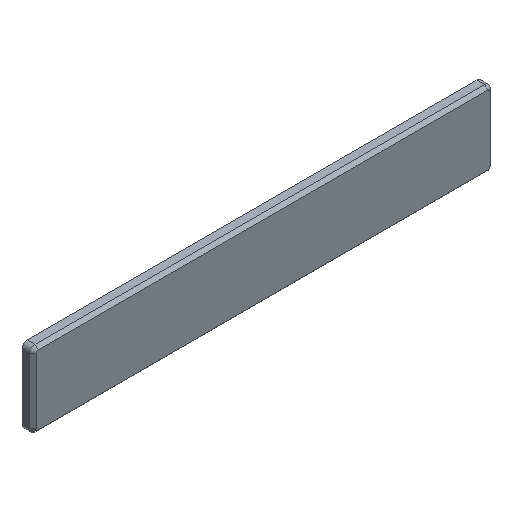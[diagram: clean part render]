
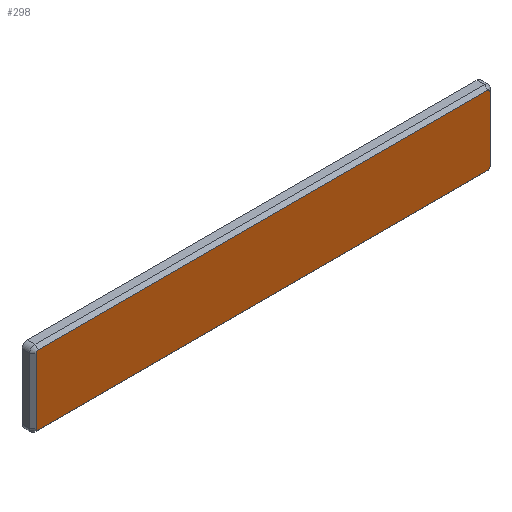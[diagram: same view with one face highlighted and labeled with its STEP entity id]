
A CAD part, isometric view. The second image highlights one B-rep face of the part: STEP entity #298.
In plain terms, the highlighted planar face has unit normal (0, -1, 0).
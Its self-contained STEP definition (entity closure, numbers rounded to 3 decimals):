
#40=FACE_OUTER_BOUND('',#58,.T.);
#58=EDGE_LOOP('',(#263,#264,#265,#266,#267,#268,#269,#270));
#64=LINE('',#456,#92);
#69=LINE('',#470,#97);
#73=LINE('',#482,#101);
#77=LINE('',#494,#105);
#92=VECTOR('',#362,10.);
#97=VECTOR('',#375,10.);
#101=VECTOR('',#387,10.);
#105=VECTOR('',#399,10.);
#119=CIRCLE('',#320,0.2);
#121=CIRCLE('',#324,0.2);
#123=CIRCLE('',#328,0.2);
#125=CIRCLE('',#332,0.2);
#136=VERTEX_POINT('',#453);
#137=VERTEX_POINT('',#455);
#140=VERTEX_POINT('',#462);
#142=VERTEX_POINT('',#468);
#144=VERTEX_POINT('',#474);
#146=VERTEX_POINT('',#480);
#148=VERTEX_POINT('',#486);
#150=VERTEX_POINT('',#492);
#160=EDGE_CURVE('',#136,#137,#64,.T.);
#164=EDGE_CURVE('',#140,#136,#119,.T.);
#167=EDGE_CURVE('',#142,#140,#69,.T.);
#170=EDGE_CURVE('',#144,#142,#121,.T.);
#173=EDGE_CURVE('',#146,#144,#73,.T.);
#176=EDGE_CURVE('',#148,#146,#123,.T.);
#179=EDGE_CURVE('',#150,#148,#77,.T.);
#181=EDGE_CURVE('',#137,#150,#125,.T.);
#263=ORIENTED_EDGE('',*,*,#160,.F.);
#264=ORIENTED_EDGE('',*,*,#164,.F.);
#265=ORIENTED_EDGE('',*,*,#167,.F.);
#266=ORIENTED_EDGE('',*,*,#170,.F.);
#267=ORIENTED_EDGE('',*,*,#173,.F.);
#268=ORIENTED_EDGE('',*,*,#176,.F.);
#269=ORIENTED_EDGE('',*,*,#179,.F.);
#270=ORIENTED_EDGE('',*,*,#181,.F.);
#280=PLANE('',#342);
#298=ADVANCED_FACE('',(#40),#280,.F.);
#320=AXIS2_PLACEMENT_3D('',#464,#368,#369);
#324=AXIS2_PLACEMENT_3D('',#476,#380,#381);
#328=AXIS2_PLACEMENT_3D('',#488,#392,#393);
#332=AXIS2_PLACEMENT_3D('',#497,#403,#404);
#342=AXIS2_PLACEMENT_3D('',#515,#431,#432);
#362=DIRECTION('',(0.,0.,-1.));
#368=DIRECTION('center_axis',(0.,1.,0.));
#369=DIRECTION('ref_axis',(1.,0.,0.));
#375=DIRECTION('',(1.,0.,0.));
#380=DIRECTION('center_axis',(0.,1.,0.));
#381=DIRECTION('ref_axis',(0.,0.,1.));
#387=DIRECTION('',(0.,0.,1.));
#392=DIRECTION('center_axis',(0.,1.,0.));
#393=DIRECTION('ref_axis',(-1.,0.,0.));
#399=DIRECTION('',(-1.,0.,0.));
#403=DIRECTION('center_axis',(0.,1.,0.));
#404=DIRECTION('ref_axis',(0.,0.,-1.));
#431=DIRECTION('center_axis',(0.,1.,0.));
#432=DIRECTION('ref_axis',(1.,0.,0.));
#453=CARTESIAN_POINT('',(50.7,-0.3,-0.5));
#455=CARTESIAN_POINT('',(50.7,-0.3,-6.5));
#456=CARTESIAN_POINT('',(50.7,-0.3,-3.));
#462=CARTESIAN_POINT('',(50.5,-0.3,-0.3));
#464=CARTESIAN_POINT('Origin',(50.5,-0.3,-0.5));
#468=CARTESIAN_POINT('',(9.,-0.3,-0.3));
#470=CARTESIAN_POINT('',(39.5,-0.3,-0.3));
#474=CARTESIAN_POINT('',(8.8,-0.3,-0.5));
#476=CARTESIAN_POINT('Origin',(9.,-0.3,-0.5));
#480=CARTESIAN_POINT('',(8.8,-0.3,-6.5));
#482=CARTESIAN_POINT('',(8.8,-0.3,0.));
#486=CARTESIAN_POINT('',(9.,-0.3,-6.7));
#488=CARTESIAN_POINT('Origin',(9.,-0.3,-6.5));
#492=CARTESIAN_POINT('',(50.5,-0.3,-6.7));
#494=CARTESIAN_POINT('',(18.75,-0.3,-6.7));
#497=CARTESIAN_POINT('Origin',(50.5,-0.3,-6.5));
#515=CARTESIAN_POINT('Origin',(28.5,-0.3,0.5));
